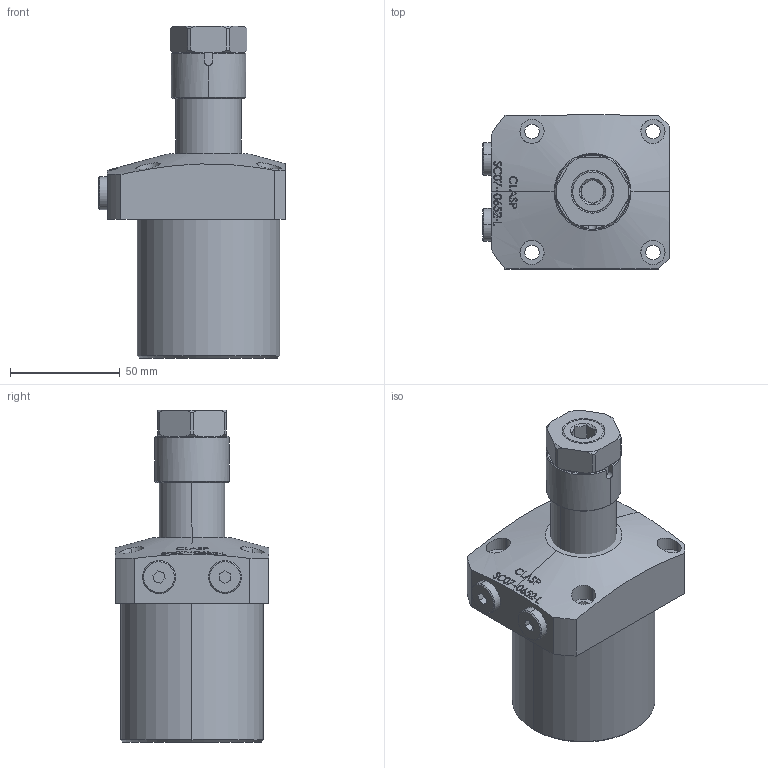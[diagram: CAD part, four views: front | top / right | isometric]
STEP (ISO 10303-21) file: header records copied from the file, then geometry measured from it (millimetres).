
FILE_DESCRIPTION (( 'STEP AP203' ), '1' );
FILE_NAME ('SC07-0652-L.STEP', '2022-07-05T17:53:21', ( '' ), ( '' ), 'SwSTEP 2.0', 'SolidWorks 2017', '' );
FILE_SCHEMA (( 'CONFIG_CONTROL_DESIGN' ));
Length unit declared in the file: millimetre
Products named in the file (6): SC-07-0652-L-05 plug; SC-07-0652-L-04 sleeve; SC-07-0652-L-03-nut; SC07-0652-L; SC-07-0652-L  BODY; SC-07-0652-L-Piston
Assembly tree (6 placements, depth 2):
  SC07-0652-L
    SC-07-0652-L  BODY
    SC-07-0652-L-Piston
    SC-07-0652-L-05 plug  x2
    SC-07-0652-L-04 sleeve
    SC-07-0652-L-03-nut
Bounding box: 85 x 70 x 151 mm (x, y, z)
Volume: 414198.5 mm3; surface area: 52919.6 mm2
Topology: 6 solids, 6 shells, 365 faces, 911 edges, 597 vertices
Faces by surface type: plane 158, bspline 95, cylinder 62, cone 48, sphere 2
Entity records: 16737 total; most frequent: CARTESIAN_POINT 8439, ORIENTED_EDGE 1758, DIRECTION 1237, EDGE_CURVE 879, VERTEX_POINT 577, AXIS2_PLACEMENT_3D 421, EDGE_LOOP 400, LINE 395
